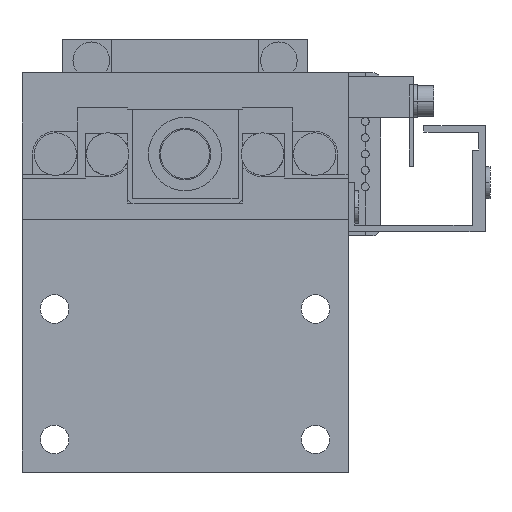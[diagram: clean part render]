
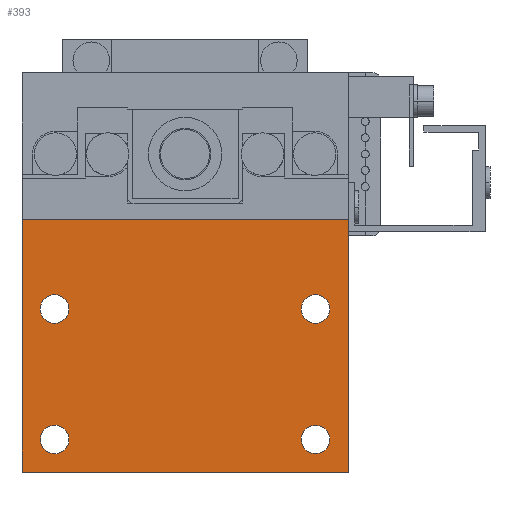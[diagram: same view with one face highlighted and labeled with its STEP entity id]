
A CAD part, front view. The second image highlights one B-rep face of the part: STEP entity #393.
In plain terms, the highlighted planar face has unit normal (0, -1, 0).
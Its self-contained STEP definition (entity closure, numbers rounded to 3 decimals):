
#393=ADVANCED_FACE('',(#1050,#1051,#1052,#1053,#1054),#1055,.F.);
#1050=FACE_BOUND('',#2363,.T.);
#1051=FACE_BOUND('',#2364,.T.);
#1052=FACE_BOUND('',#2365,.T.);
#1053=FACE_BOUND('',#2366,.T.);
#1054=FACE_OUTER_BOUND('',#2367,.T.);
#1055=PLANE('',#2368);
#2363=EDGE_LOOP('',(#3854,#3855));
#2364=EDGE_LOOP('',(#3856,#3857));
#2365=EDGE_LOOP('',(#3858,#3859));
#2366=EDGE_LOOP('',(#3860,#3861));
#2367=EDGE_LOOP('',(#3862,#3863,#3864,#3865));
#2368=AXIS2_PLACEMENT_3D('',#3866,#3867,#3868);
#3854=ORIENTED_EDGE('',*,*,#8607,.F.);
#3855=ORIENTED_EDGE('',*,*,#8525,.F.);
#3856=ORIENTED_EDGE('',*,*,#8608,.F.);
#3857=ORIENTED_EDGE('',*,*,#8521,.F.);
#3858=ORIENTED_EDGE('',*,*,#8606,.F.);
#3859=ORIENTED_EDGE('',*,*,#8529,.F.);
#3860=ORIENTED_EDGE('',*,*,#8600,.F.);
#3861=ORIENTED_EDGE('',*,*,#8533,.F.);
#3862=ORIENTED_EDGE('',*,*,#8609,.T.);
#3863=ORIENTED_EDGE('',*,*,#8592,.F.);
#3864=ORIENTED_EDGE('',*,*,#8577,.F.);
#3865=ORIENTED_EDGE('',*,*,#8594,.T.);
#3866=CARTESIAN_POINT('',(-20.0,0.0,-13.5));
#3867=DIRECTION('',(0.0,1.0,0.0));
#3868=DIRECTION('',(-1.0,0.0,0.0));
#8521=EDGE_CURVE('',#10065,#10061,#10067,.T.);
#8525=EDGE_CURVE('',#10073,#10069,#10075,.T.);
#8529=EDGE_CURVE('',#10081,#10077,#10083,.T.);
#8533=EDGE_CURVE('',#10089,#10085,#10091,.T.);
#8577=EDGE_CURVE('',#10167,#10169,#10170,.T.);
#8592=EDGE_CURVE('',#10169,#10188,#10192,.T.);
#8594=EDGE_CURVE('',#10167,#10193,#10195,.T.);
#8600=EDGE_CURVE('',#10085,#10089,#10202,.T.);
#8606=EDGE_CURVE('',#10077,#10081,#10210,.T.);
#8607=EDGE_CURVE('',#10069,#10073,#10211,.T.);
#8608=EDGE_CURVE('',#10061,#10065,#10212,.T.);
#8609=EDGE_CURVE('',#10193,#10188,#10213,.T.);
#10061=VERTEX_POINT('',#12575);
#10065=VERTEX_POINT('',#12580);
#10067=CIRCLE('',#12583,1.75);
#10069=VERTEX_POINT('',#12585);
#10073=VERTEX_POINT('',#12590);
#10075=CIRCLE('',#12593,1.75);
#10077=VERTEX_POINT('',#12595);
#10081=VERTEX_POINT('',#12600);
#10083=CIRCLE('',#12603,1.75);
#10085=VERTEX_POINT('',#12605);
#10089=VERTEX_POINT('',#12610);
#10091=CIRCLE('',#12613,1.75);
#10167=VERTEX_POINT('',#12714);
#10169=VERTEX_POINT('',#12717);
#10170=LINE('',#12718,#12719);
#10188=VERTEX_POINT('',#12745);
#10192=LINE('',#12751,#12752);
#10193=VERTEX_POINT('',#12753);
#10195=LINE('',#12756,#12757);
#10202=CIRCLE('',#12766,1.75);
#10210=CIRCLE('',#12777,1.75);
#10211=CIRCLE('',#12778,1.75);
#10212=CIRCLE('',#12779,1.75);
#10213=LINE('',#12780,#12781);
#12575=CARTESIAN_POINT('',(-16.0,0.0,-7.75));
#12580=CARTESIAN_POINT('',(-16.0,0.0,-11.25));
#12583=AXIS2_PLACEMENT_3D('',#16445,#16446,#16447);
#12585=CARTESIAN_POINT('',(16.0,0.0,8.25));
#12590=CARTESIAN_POINT('',(16.0,0.0,4.75));
#12593=AXIS2_PLACEMENT_3D('',#16453,#16454,#16455);
#12595=CARTESIAN_POINT('',(16.0,0.0,-7.75));
#12600=CARTESIAN_POINT('',(16.0,0.0,-11.25));
#12603=AXIS2_PLACEMENT_3D('',#16461,#16462,#16463);
#12605=CARTESIAN_POINT('',(-16.0,0.0,8.25));
#12610=CARTESIAN_POINT('',(-16.0,0.0,4.75));
#12613=AXIS2_PLACEMENT_3D('',#16469,#16470,#16471);
#12714=CARTESIAN_POINT('',(-20.0,0.0,-13.5));
#12717=CARTESIAN_POINT('',(-20.0,0.0,17.5));
#12718=CARTESIAN_POINT('',(-20.0,0.0,-13.5));
#12719=VECTOR('',#16549,1000.0);
#12745=CARTESIAN_POINT('',(20.0,0.0,17.5));
#12751=CARTESIAN_POINT('',(-20.0,0.0,17.5));
#12752=VECTOR('',#16572,1000.0);
#12753=CARTESIAN_POINT('',(20.0,0.0,-13.5));
#12756=CARTESIAN_POINT('',(-20.0,0.0,-13.5));
#12757=VECTOR('',#16574,1000.0);
#12766=AXIS2_PLACEMENT_3D('',#16586,#16587,#16588);
#12777=AXIS2_PLACEMENT_3D('',#16598,#16599,#16600);
#12778=AXIS2_PLACEMENT_3D('',#16601,#16602,#16603);
#12779=AXIS2_PLACEMENT_3D('',#16604,#16605,#16606);
#12780=CARTESIAN_POINT('',(20.0,0.0,-13.5));
#12781=VECTOR('',#16607,1000.0);
#16445=CARTESIAN_POINT('',(-16.0,0.0,-9.5));
#16446=DIRECTION('',(0.0,-1.0,0.0));
#16447=DIRECTION('',(0.0,0.0,1.0));
#16453=CARTESIAN_POINT('',(16.0,0.0,6.5));
#16454=DIRECTION('',(0.0,-1.0,0.0));
#16455=DIRECTION('',(0.0,0.0,1.0));
#16461=CARTESIAN_POINT('',(16.0,0.0,-9.5));
#16462=DIRECTION('',(0.0,-1.0,0.0));
#16463=DIRECTION('',(0.0,0.0,1.0));
#16469=CARTESIAN_POINT('',(-16.0,0.0,6.5));
#16470=DIRECTION('',(0.0,-1.0,0.0));
#16471=DIRECTION('',(0.0,0.0,1.0));
#16549=DIRECTION('',(0.0,0.0,1.0));
#16572=DIRECTION('',(1.0,0.0,0.0));
#16574=DIRECTION('',(1.0,0.0,0.0));
#16586=CARTESIAN_POINT('',(-16.0,0.0,6.5));
#16587=DIRECTION('',(0.0,-1.0,0.0));
#16588=DIRECTION('',(0.0,0.0,1.0));
#16598=CARTESIAN_POINT('',(16.0,0.0,-9.5));
#16599=DIRECTION('',(0.0,-1.0,0.0));
#16600=DIRECTION('',(0.0,0.0,1.0));
#16601=CARTESIAN_POINT('',(16.0,0.0,6.5));
#16602=DIRECTION('',(0.0,-1.0,0.0));
#16603=DIRECTION('',(0.0,0.0,1.0));
#16604=CARTESIAN_POINT('',(-16.0,0.0,-9.5));
#16605=DIRECTION('',(0.0,-1.0,0.0));
#16606=DIRECTION('',(0.0,0.0,1.0));
#16607=DIRECTION('',(0.0,0.0,1.0));
